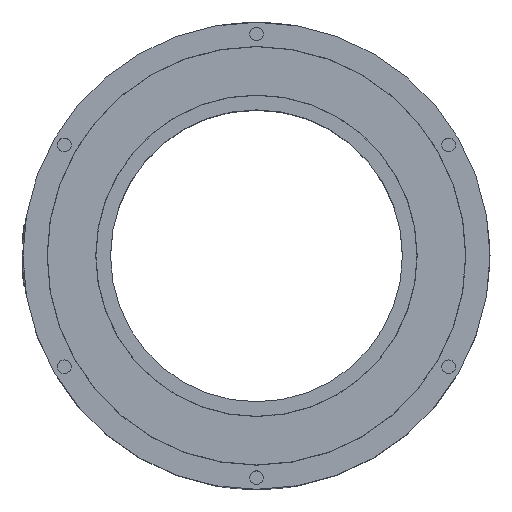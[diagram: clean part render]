
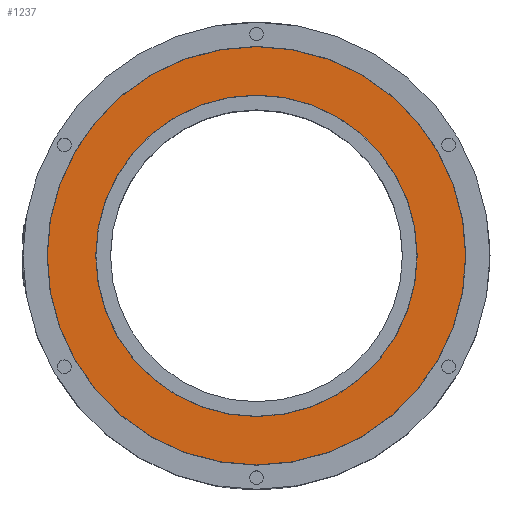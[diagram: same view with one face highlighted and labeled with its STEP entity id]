
A CAD part, top view. The second image highlights one B-rep face of the part: STEP entity #1237.
In plain terms, the highlighted planar face has unit normal (0, 0, 1).
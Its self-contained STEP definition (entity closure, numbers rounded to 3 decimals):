
#285=FACE_BOUND('',#2387,.T.);
#286=FACE_BOUND('',#2388,.T.);
#458=CIRCLE('',#7090,107.5);
#461=CIRCLE('',#7095,82.6);
#773=PLANE('',#7098);
#1237=ADVANCED_FACE('',(#285,#286),#773,.T.);
#2387=EDGE_LOOP('',(#3933));
#2388=EDGE_LOOP('',(#3934));
#3933=ORIENTED_EDGE('',*,*,#5880,.F.);
#3934=ORIENTED_EDGE('',*,*,#5877,.T.);
#4967=VERTEX_POINT('',#27315);
#4970=VERTEX_POINT('',#27323);
#5877=EDGE_CURVE('',#4967,#4967,#458,.T.);
#5880=EDGE_CURVE('',#4970,#4970,#461,.T.);
#7090=AXIS2_PLACEMENT_3D('',#27314,#8201,#8202);
#7095=AXIS2_PLACEMENT_3D('',#27322,#8211,#8212);
#7098=AXIS2_PLACEMENT_3D('',#27326,#8217,#8218);
#8201=DIRECTION('',(0.,0.,1.));
#8202=DIRECTION('',(1.,0.,0.));
#8211=DIRECTION('',(0.,0.,1.));
#8212=DIRECTION('',(-1.,0.,0.));
#8217=DIRECTION('',(0.,0.,1.));
#8218=DIRECTION('',(-1.,0.,0.));
#27314=CARTESIAN_POINT('',(0.,0.,130.));
#27315=CARTESIAN_POINT('',(107.5,0.,130.));
#27322=CARTESIAN_POINT('',(0.,0.,130.));
#27323=CARTESIAN_POINT('',(-82.6,0.,130.));
#27326=CARTESIAN_POINT('',(0.,0.,130.));
